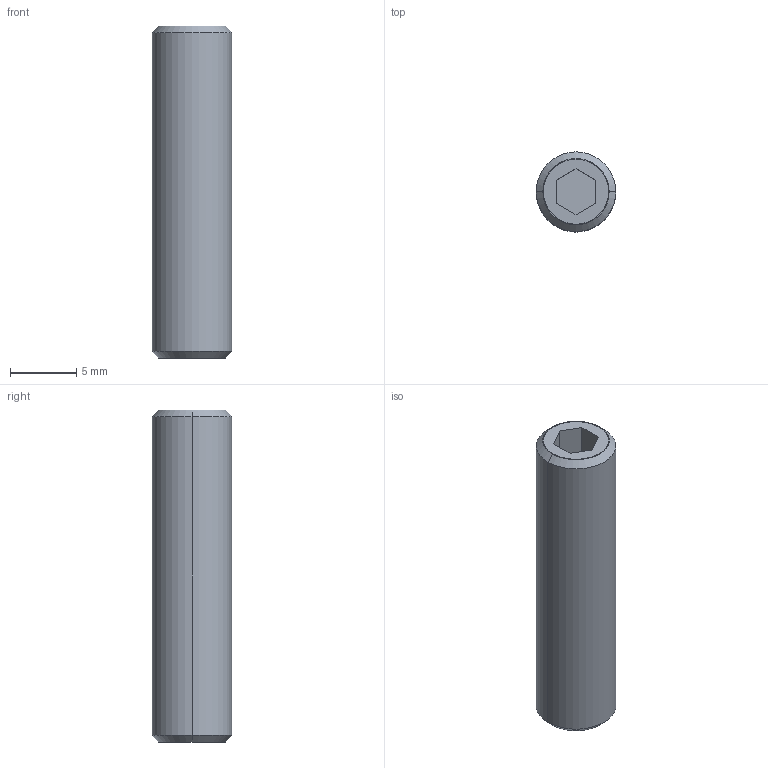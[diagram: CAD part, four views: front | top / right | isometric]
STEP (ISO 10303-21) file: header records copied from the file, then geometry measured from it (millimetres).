
FILE_DESCRIPTION (( 'STEP AP214' ), '1' );
FILE_NAME ('BruyRubio_VRA_6_x_25.STEP', '2019-12-30T10:31:49', ( '' ), ( '' ), 'SwSTEP 2.0', 'SolidWorks 2017', '' );
FILE_SCHEMA (( 'AUTOMOTIVE_DESIGN' ));
Length unit declared in the file: millimetre
Products named in the file (1): BruyRubio_VRA_6_x_25
Bounding box: 6 x 6 x 25 mm (x, y, z)
Volume: 671.2 mm3; surface area: 1327.4 mm2
Topology: 2 solids, 2 shells, 21 faces, 44 edges, 28 vertices
Faces by surface type: plane 11, cylinder 6, cone 4
Entity records: 840 total; most frequent: DIRECTION 104, CARTESIAN_POINT 94, ORIENTED_EDGE 88, EDGE_CURVE 44, AXIS2_PLACEMENT_3D 38, LINE 28, VERTEX_POINT 28, VECTOR 28
